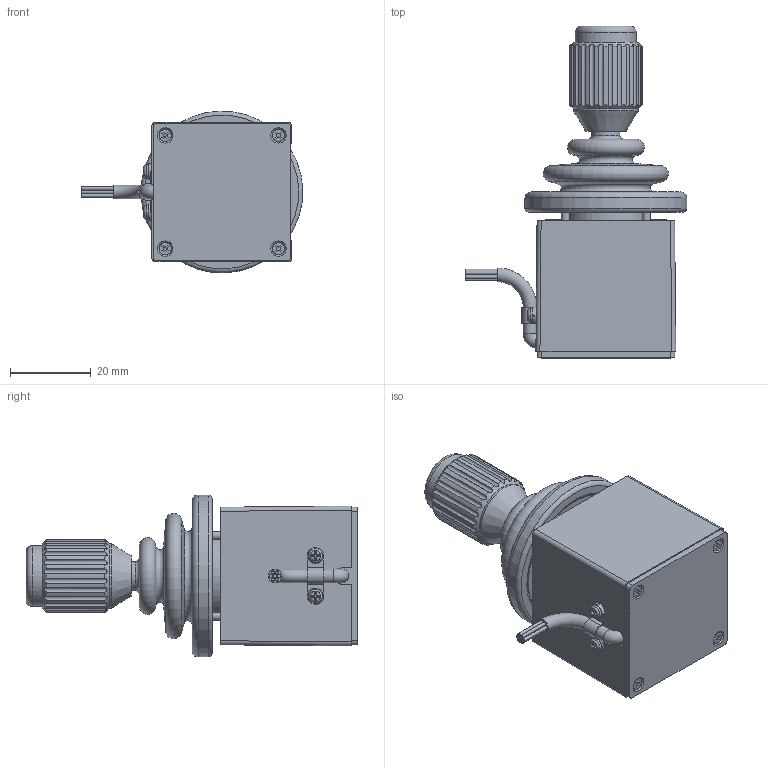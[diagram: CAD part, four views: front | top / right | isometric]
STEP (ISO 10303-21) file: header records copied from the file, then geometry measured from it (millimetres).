
FILE_DESCRIPTION (( 'STEP AP214' ), '1' );
FILE_NAME ('30JEK-ZU-06R3G.STEP', '2019-06-24T07:12:58', ( '' ), ( '' ), 'SwSTEP 2.0', 'SolidWorks 2018', '' );
FILE_SCHEMA (( 'AUTOMOTIVE_DESIGN' ));
Length unit declared in the file: millimetre
Products named in the file (1): 30JEK-ZU-06R3G
Bounding box: 54.71 x 82 x 39.97 mm (x, y, z)
Volume: 55715.6 mm3; surface area: 15506.9 mm2
Topology: 1 solids, 1 shells, 480 faces, 1295 edges, 859 vertices
Faces by surface type: plane 269, cylinder 139, cone 57, torus 13, sphere 2
Full cylindrical faces by diameter (mm): 0.8 x7, 1.1 x1, 1.2 x2, 2 x7, 2.2 x4, 3 x4, 4 x6, 7 x1, 14.45 x1, 14.5 x1, 15.05 x1, 15.1 x2, 16 x1, 20 x1, 33 x1, 40 x1
Entity records: 15319 total; most frequent: CARTESIAN_POINT 3650, DIRECTION 2387, ORIENTED_EDGE 2384, EDGE_CURVE 1192, AXIS2_PLACEMENT_3D 844, VERTEX_POINT 823, LINE 699, VECTOR 699
